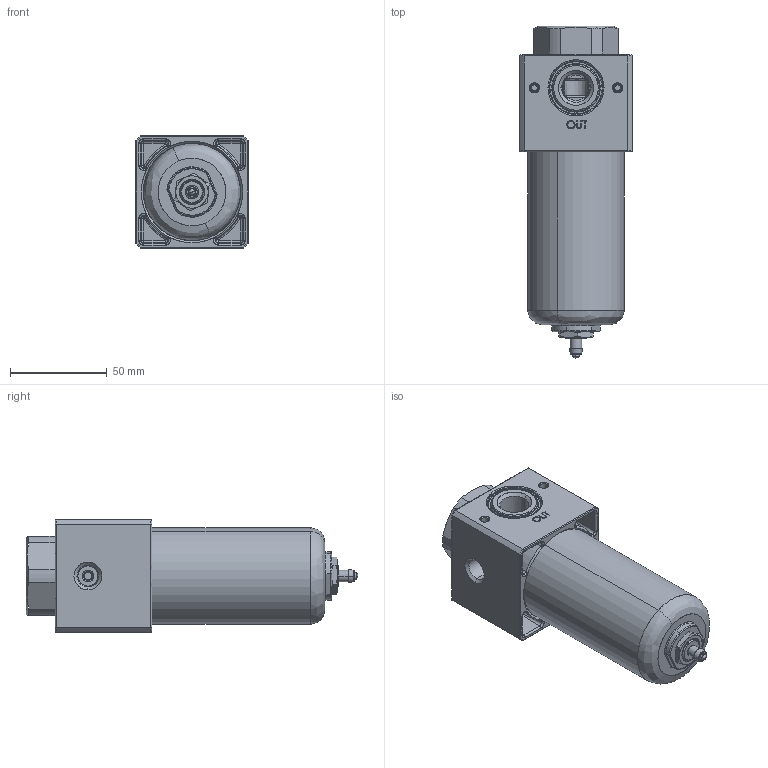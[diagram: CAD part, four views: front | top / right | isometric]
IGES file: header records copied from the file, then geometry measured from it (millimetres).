
Start section: SolidWorks IGES file using analytic representation for surfaces
Bounding box: 58 x 171.62 x 58 mm (x, y, z)
Surface area: 78537.4 mm2 (no closed solid volume)
Topology: 0 solids, 0 shells, 652 faces, 8877 edges, 8870 vertices
Faces by surface type: bspline 348, revolution 304
